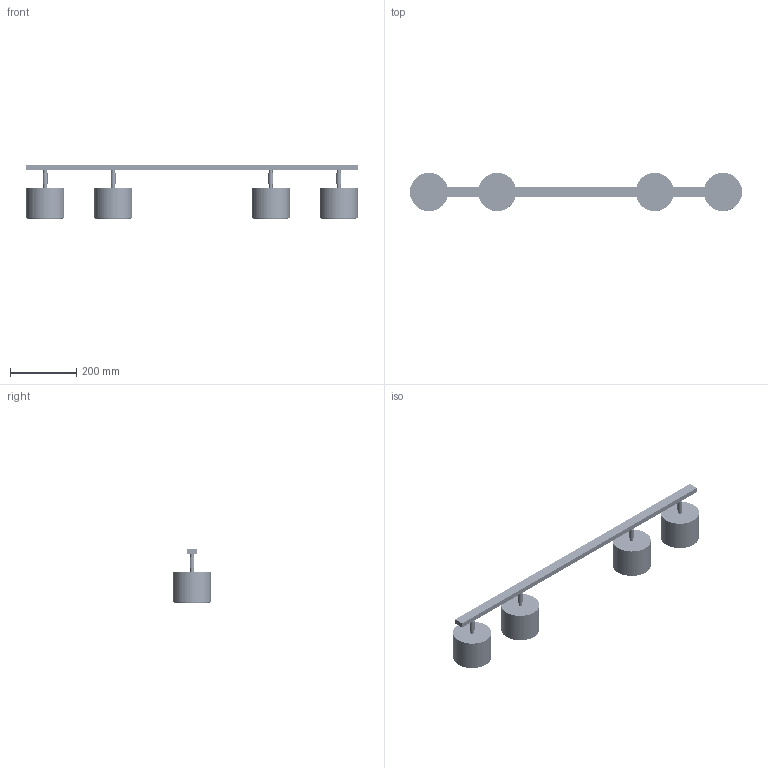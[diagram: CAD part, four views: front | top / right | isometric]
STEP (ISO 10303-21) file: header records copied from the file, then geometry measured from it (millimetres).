
FILE_DESCRIPTION ((), '1');
FILE_NAME ('C:\Users\MiCHAL\Desktop\ALDEX - Modele 3D 28.09.2022\1047PL_L1\1047PL_L1\1047PL_L1.stp', '2022-11-08T00:49:26', ('Unknown'), ('Unknown'), 'HarmonyWare STEP v2.1.4', 'HarmonyWare Translators', '');
FILE_SCHEMA (('CONFIG_CONTROL_DESIGN'));
Length unit declared in the file: centimetre
Assembly tree (37 placements, depth 2):
  (unnamed)
    (unnamed)
    (unnamed)
    (unnamed)
    (unnamed)
    (unnamed)
    (unnamed)
    (unnamed)
    (unnamed)
    (unnamed)
    (unnamed)
    (unnamed)
    (unnamed)
    (unnamed)
    (unnamed)
    (unnamed)
    (unnamed)
    (unnamed)
    (unnamed)
    (unnamed)
    (unnamed)
    (unnamed)
    (unnamed)
    (unnamed)
    (unnamed)
    (unnamed)
    (unnamed)
    (unnamed)
    (unnamed)
    (unnamed)
    (unnamed)
    (unnamed)
    (unnamed)
    (unnamed)
    (unnamed)
    (unnamed)
    (unnamed)
    (unnamed)
Bounding box: 1000 x 115 x 164.76 mm (x, y, z)
Volume: 750464.9 mm3; surface area: 703529.2 mm2
Topology: 33 solids, 37 shells, 40737 faces, 63123 edges, 22452 vertices
Faces by surface type: bspline 40737
Entity records: 754436 total; most frequent: CARTESIAN_POINT 311720, ORIENTED_EDGE 125766, B_SPLINE_CURVE_WITH_KNOTS 63123, EDGE_CURVE 63123, EDGE_LOOP 40737, FACE_OUTER_BOUND 40737, B_SPLINE_SURFACE_WITH_KNOTS 40737, ADVANCED_FACE 40737
